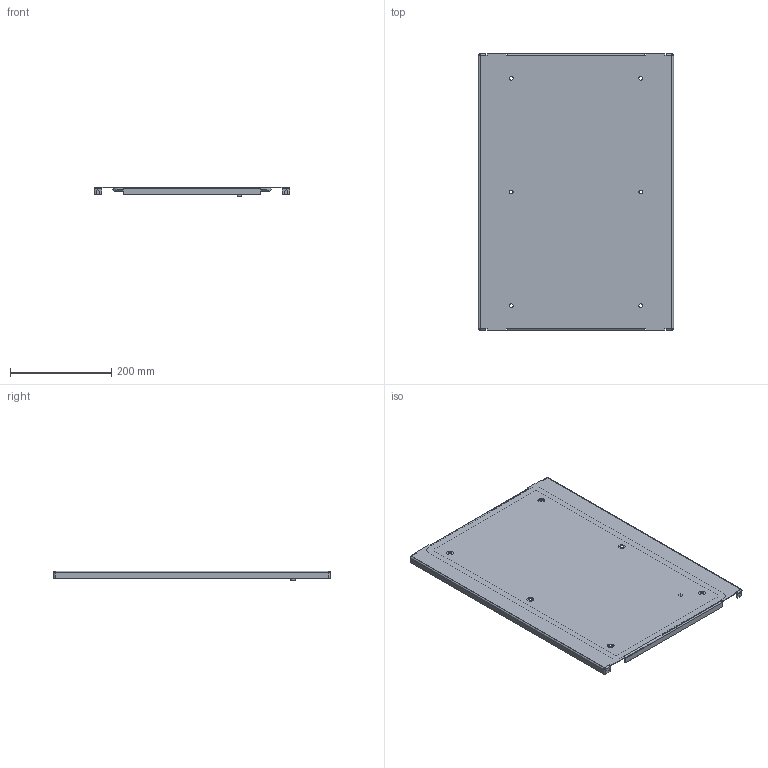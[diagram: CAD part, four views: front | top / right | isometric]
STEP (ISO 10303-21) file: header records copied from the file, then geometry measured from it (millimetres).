
FILE_DESCRIPTION(('STEP AP203'), '1');
FILE_NAME('Ïàíåëü ëèöåâàÿ ãëóõàÿ 550õ400 ìì OptiBox M 419500 ÊÝÀÇ', '', ('UNSPECIFIED'), ('UNSPECIFIED'), 'C3D Converter', 'C3D Toolkit', '');
FILE_SCHEMA(('CONFIG_CONTROL_DESIGN'));
Length unit declared in the file: millimetre
Bounding box: 386.4 x 547 x 18.9 mm (x, y, z)
Volume: 439634.9 mm3; surface area: 519592.3 mm2
Topology: 3 solids, 3 shells, 174 faces, 397 edges, 238 vertices
Faces by surface type: plane 111, cylinder 55, bspline 8
Full cylindrical faces by diameter (mm): 0.75 x1, 1 x1, 5 x2, 7.3 x6, 8 x1, 9.3 x1, 13 x1, 13.5 x6
Entity records: 5888 total; most frequent: CARTESIAN_POINT 2027, ORIENTED_EDGE 756, DIRECTION 754, EDGE_CURVE 378, LINE 264, VECTOR 264, AXIS2_PLACEMENT_3D 245, VERTEX_POINT 238
